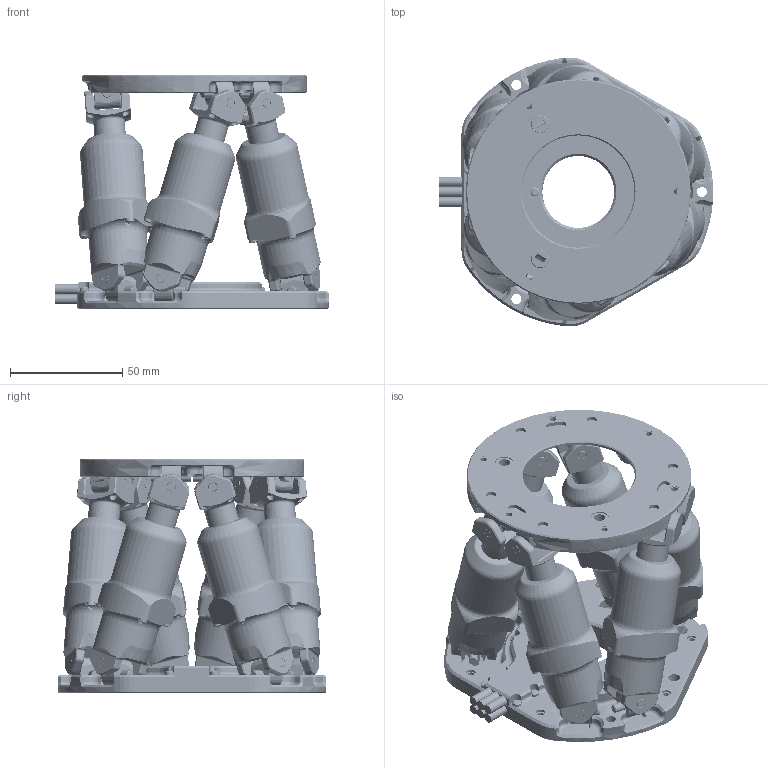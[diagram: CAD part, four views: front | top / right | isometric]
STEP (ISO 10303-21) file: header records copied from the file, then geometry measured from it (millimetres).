
FILE_DESCRIPTION (( 'STEP AP214' ), '1' );
FILE_NAME ('STD15_0000_Hexapode SOLANO_C0.step', '2026-07-08T07:52:48', ( '' ), ( '' ), 'SwSTEP 2.0', 'SolidWorks 2025', '' );
FILE_SCHEMA (( 'AUTOMOTIVE_DESIGN' ));
Length unit declared in the file: millimetre
Products named in the file (22): STD15_0200_Actionneur_Light; STD15_0300_Croisillon; STD15_0000_Hexapode SOLANO_C0; STD15_0110_Plateau Fixe; STD15_0100_Plateaux_PM light; STD15_0160_Plateau Mobile_Light; STD15_0100_Plateaux_PF Light; STD15_0110_Plateau Fixe_Light; STD15_0160_Plateau Mobile; STD15_0300_Articulation_Croisillon Light; STD15_0220_Tige Actionneur articule; STD15_0300_Axe; STD15_0300_Articulation_Plateau Light; STD15_0210_Corps Actionneur articule_Light; STD15_2218_Rondelle Elastique; STD15_0220_Tige Actionneur articule_Light; STD15_0210_Corps Actionneur articule
Assembly tree (54 placements, depth 4):
  STD15_0000_Hexapode SOLANO_C0
    STD15_0100_Plateaux_PF Light
      STD15_0110_Plateau Fixe_Light
        STD15_0110_Plateau Fixe
    STD15_0100_Plateaux_PM light
      STD15_0160_Plateau Mobile_Light
        STD15_0160_Plateau Mobile
    STD15_0200_Actionneur_Light
      STD15_0210_Corps Actionneur articule_Light
        STD15_0210_Corps Actionneur articule
      STD15_0220_Tige Actionneur articule_Light
        STD15_0220_Tige Actionneur articule
      STD15_0300_Articulation_Croisillon Light  x2
        STD15_0300_Croisillon
        STD15_2218_Rondelle Elastique
      STD15_0300_Articulation_Plateau Light  x2
        STD15_0300_Axe
    STD15_0200_Actionneur_Light
      STD15_0210_Corps Actionneur articule_Light
        STD15_0210_Corps Actionneur articule
      STD15_0220_Tige Actionneur articule_Light
        STD15_0220_Tige Actionneur articule
      STD15_0300_Articulation_Croisillon Light  x2
        STD15_0300_Croisillon
        STD15_2218_Rondelle Elastique
      STD15_0300_Articulation_Plateau Light  x2
        STD15_0300_Axe
    STD15_0200_Actionneur_Light
      STD15_0210_Corps Actionneur articule_Light
        STD15_0210_Corps Actionneur articule
      STD15_0220_Tige Actionneur articule_Light
        STD15_0220_Tige Actionneur articule
      STD15_0300_Articulation_Croisillon Light  x2
        STD15_0300_Croisillon
        STD15_2218_Rondelle Elastique
      STD15_0300_Articulation_Plateau Light  x2
        STD15_0300_Axe
    STD15_0200_Actionneur_Light
      STD15_0210_Corps Actionneur articule_Light
        STD15_0210_Corps Actionneur articule
      STD15_0220_Tige Actionneur articule_Light
        STD15_0220_Tige Actionneur articule
      STD15_0300_Articulation_Croisillon Light  x2
        STD15_0300_Croisillon
        STD15_2218_Rondelle Elastique
      STD15_0300_Articulation_Plateau Light  x2
        STD15_0300_Axe
    STD15_0200_Actionneur_Light
      STD15_0210_Corps Actionneur articule_Light
        STD15_0210_Corps Actionneur articule
      STD15_0220_Tige Actionneur articule_Light
        STD15_0220_Tige Actionneur articule
      STD15_0300_Articulation_Croisillon Light  x2
        STD15_0300_Croisillon
        STD15_2218_Rondelle Elastique
      STD15_0300_Articulation_Plateau Light  x2
        STD15_0300_Axe
    STD15_0200_Actionneur_Light
      STD15_0210_Corps Actionneur articule_Light
        STD15_0210_Corps Actionneur articule
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Bounding box: 122 x 119.66 x 104 mm (x, y, z)
Volume: 366156.1 mm3; surface area: 114820 mm2
Topology: 62 solids, 64 shells, 4131 faces, 10391 edges, 6543 vertices
Faces by surface type: cylinder 1299, plane 1201, cone 834, torus 463, sphere 184, bspline 150
Entity records: 67011 total; most frequent: CARTESIAN_POINT 22499, ORIENTED_EDGE 9610, DIRECTION 8858, EDGE_CURVE 4805, AXIS2_PLACEMENT_3D 3505, VERTEX_POINT 3205, EDGE_LOOP 1926, LINE 1848
